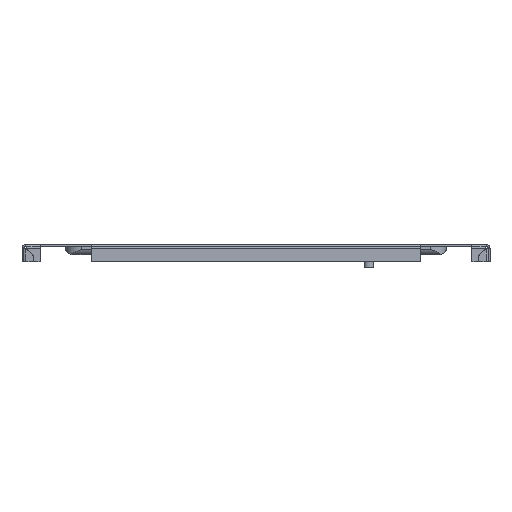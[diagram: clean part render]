
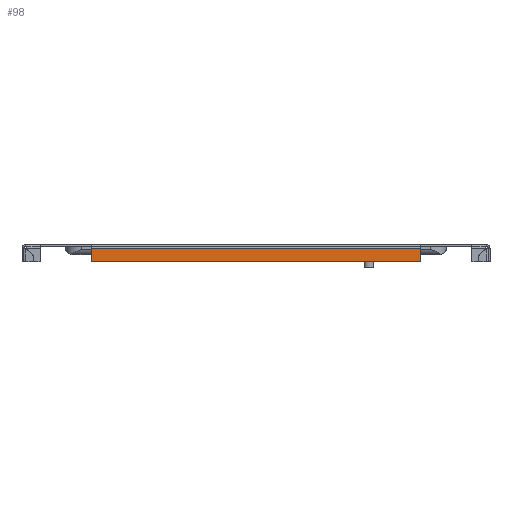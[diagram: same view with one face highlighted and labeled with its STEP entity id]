
A CAD part, front view. The second image highlights one B-rep face of the part: STEP entity #98.
In plain terms, the highlighted planar face has unit normal (0, -1, 0).
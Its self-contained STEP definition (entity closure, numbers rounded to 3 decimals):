
#98=ADVANCED_FACE('',(#452),#454,.F.);
#452=FACE_BOUND('',#453,.T.);
#453=EDGE_LOOP('',(#1915,#1916,#1917,#1918));
#454=PLANE('',#455);
#455=AXIS2_PLACEMENT_3D('',#456,#457,#458);
#456=CARTESIAN_POINT('',(0.,-348.5,0.));
#457=DIRECTION('',(0.,1.,0.));
#458=DIRECTION('',(0.,0.,1.));
#1915=ORIENTED_EDGE('',*,*,#2671,.T.);
#1916=ORIENTED_EDGE('',*,*,#2647,.F.);
#1917=ORIENTED_EDGE('',*,*,#2672,.T.);
#1918=ORIENTED_EDGE('',*,*,#2673,.F.);
#2647=EDGE_CURVE('',#3071,#3072,#3073,.T.);
#2671=EDGE_CURVE('',#3111,#3072,#3112,.T.);
#2672=EDGE_CURVE('',#3071,#3113,#3114,.T.);
#2673=EDGE_CURVE('',#3111,#3113,#3115,.T.);
#3071=VERTEX_POINT('',#3809);
#3072=VERTEX_POINT('',#3810);
#3073=LINE('',#3811,#3812);
#3111=VERTEX_POINT('',#3959);
#3112=LINE('',#3960,#3961);
#3113=VERTEX_POINT('',#3963);
#3114=LINE('',#3964,#3965);
#3115=LINE('',#3967,#3968);
#3809=CARTESIAN_POINT('',(-136.2,-348.5,-3.2));
#3810=CARTESIAN_POINT('',(136.2,-348.5,-3.2));
#3811=CARTESIAN_POINT('',(-136.2,-348.5,-3.2));
#3812=VECTOR('',#3813,1.);
#3813=DIRECTION('',(1.,0.,0.));
#3959=CARTESIAN_POINT('',(136.2,-348.5,-14.));
#3960=CARTESIAN_POINT('',(136.2,-348.5,-14.));
#3961=VECTOR('',#3962,1.);
#3962=DIRECTION('',(0.,0.,1.));
#3963=CARTESIAN_POINT('',(-136.2,-348.5,-14.));
#3964=CARTESIAN_POINT('',(-136.2,-348.5,-3.2));
#3965=VECTOR('',#3966,1.);
#3966=DIRECTION('',(0.,0.,-1.));
#3967=CARTESIAN_POINT('',(136.2,-348.5,-14.));
#3968=VECTOR('',#3969,1.);
#3969=DIRECTION('',(-1.,0.,0.));
